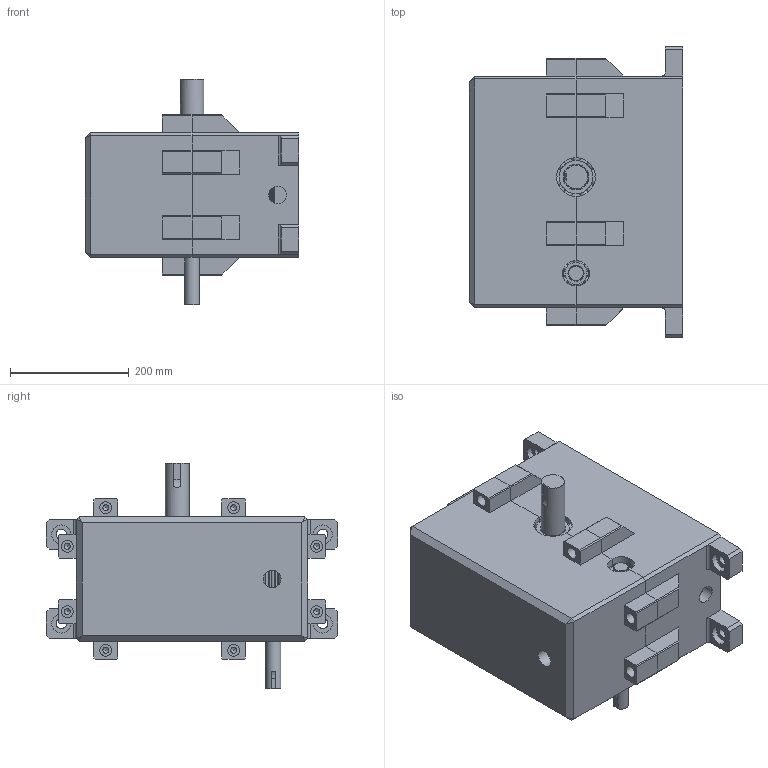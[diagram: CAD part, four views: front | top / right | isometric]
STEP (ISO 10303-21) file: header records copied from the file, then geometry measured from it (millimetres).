
FILE_DESCRIPTION(/* description */ (''),/* implementation_level */ '2;1');
FILE_NAME(/* name */ 'riduttore2.stp',/* time_stamp */ '2026-05-08T17:31:37+02:00',/* author */ ('Ryzen5700u'),/* organization */ (''),/* preprocessor_version */ 'ST-DEVELOPER v20',/* originating_system */ 'Autodesk Inventor 2025',/* authorisation */ '');
FILE_SCHEMA (('AUTOMOTIVE_DESIGN { 1 0 10303 214 3 1 1 }'));
Length unit declared in the file: millimetre
Products named in the file (15): riduttore2; Ingranaggi cilindrici; Ingranaggio cilindrico1; Ingranaggio cilindrico2; Albero; Albero_1; BS 290 SKF - SKF 6305-Z; distanziale_condeotta; BS 290 SKF - SKF 6308-Z; distanziale_pignone; carter; Connessione a chiavetta; Connessione a chiavetta_1; ISO 2491 - A  12 x 6 x 63; carter_MIR
Assembly tree (16 placements, depth 3):
  riduttore2
    Ingranaggi cilindrici
      Ingranaggio cilindrico1
      Ingranaggio cilindrico2
    Albero
    Albero_1
    BS 290 SKF - SKF 6308-Z  x2
    BS 290 SKF - SKF 6305-Z  x2
    distanziale_condeotta
    distanziale_pignone
    carter
    Connessione a chiavetta
    Connessione a chiavetta_1
      ISO 2491 - A  12 x 6 x 63
    carter_MIR
Bounding box: 360 x 490 x 380 mm (x, y, z)
Volume: 16573981.4 mm3; surface area: 1605604.8 mm2
Topology: 13 solids, 13 shells, 1002 faces, 2966 edges, 1951 vertices
Faces by surface type: cylinder 566, plane 288, torus 80, cone 42, sphere 26
Full cylindrical faces by diameter (mm): 10.106 x16, 17.294 x4, 20 x8, 25 x5, 29.835 x2, 32 x4, 35 x2, 36.84 x4, 40 x5, 42 x2, 50.16 x4, 55 x2, 56 x4, 62 x2, 74 x4, 75 x2, 90 x2
Entity records: 33781 total; most frequent: CARTESIAN_POINT 7503, DIRECTION 5832, ORIENTED_EDGE 5354, EDGE_CURVE 2677, AXIS2_PLACEMENT_3D 2314, VERTEX_POINT 1780, CIRCLE 1347, LINE 1204
